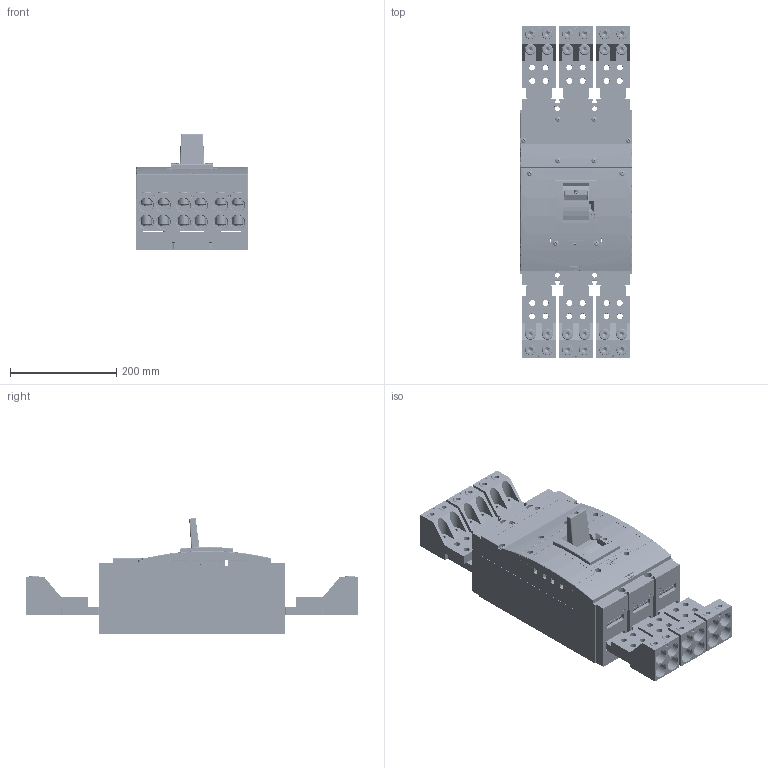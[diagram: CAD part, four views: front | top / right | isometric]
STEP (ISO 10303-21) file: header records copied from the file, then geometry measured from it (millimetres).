
FILE_DESCRIPTION (( 'STEP AP214' ), '1' );
FILE_NAME ('BL____SE305__SE-BL__CS-BL-B004.step', '2011-09-08T11:36:17', ( 'Radek Veselý' ), ( 'Siemens and Partners' ), 'SwSTEP 2.0', 'SolidWorks 2006303', '' );
FILE_SCHEMA (( 'AUTOMOTIVE_DESIGN' ));
Length unit declared in the file: millimetre
Products named in the file (1): BL____SE305__SE-BL__CS-BL-B004
Bounding box: 210 x 626 x 218.52 mm (x, y, z)
Volume: 5012244.3 mm3; surface area: 1797302.3 mm2
Topology: 81 solids, 81 shells, 7851 faces, 20838 edges, 13229 vertices
Faces by surface type: plane 4017, cylinder 2537, cone 822, sphere 206, torus 139, bspline 130
Entity records: 345411 total; most frequent: CARTESIAN_POINT 60802, DIRECTION 41280, ORIENTED_EDGE 41274, EDGE_CURVE 20637, AXIS2_PLACEMENT_3D 14254, VERTEX_POINT 13219, VECTOR 12772, LINE 12772
